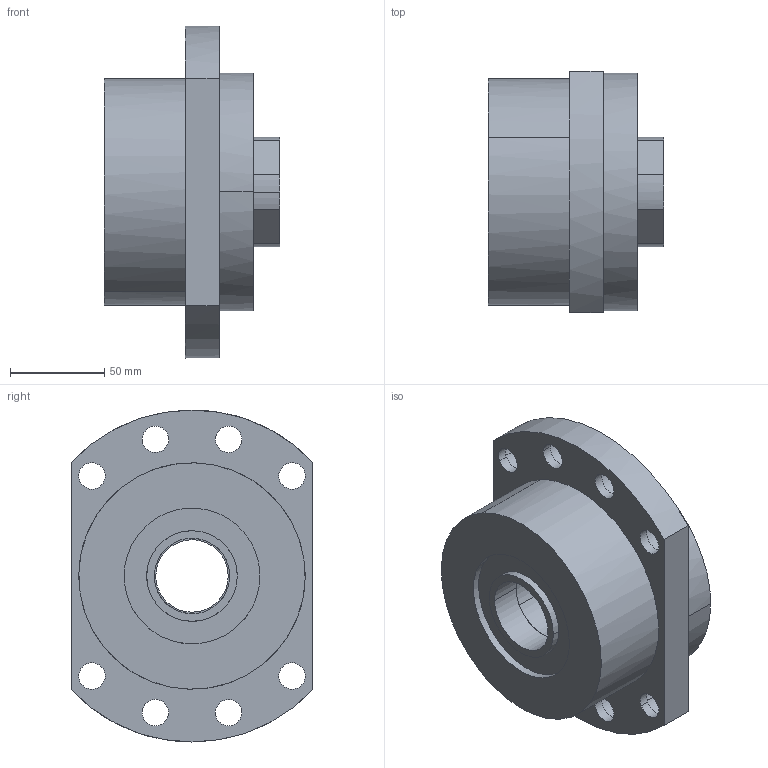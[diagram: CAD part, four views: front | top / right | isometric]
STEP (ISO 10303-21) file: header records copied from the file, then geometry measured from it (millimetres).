
FILE_DESCRIPTION(('CATIA V5 STEP Exchange'),'2;1');
FILE_NAME('D:\서포트 완성도면\FK\FK40.stp','2014-03-26T10:18:26+00:00',('none'),('none'),'CATIA Version 5 Release 18 GA (IN-10)','CATIA V5 STEP AP203','none');
FILE_SCHEMA(('CONFIG_CONTROL_DESIGN'));
Length unit declared in the file: millimetre
Products named in the file (1): FK40
Assembly tree (4 placements, depth 2):
  FK40
    #56
    #3390  x2
    #3666
Bounding box: 93 x 128 x 176 mm (x, y, z)
Volume: 921722 mm3; surface area: 110380.1 mm2
Topology: 4 solids, 4 shells, 92 faces, 212 edges, 142 vertices
Faces by surface type: cylinder 64, plane 28
Entity records: 4145 total; most frequent: CARTESIAN_POINT 2245, ORIENTED_EDGE 400, DIRECTION 271, EDGE_CURVE 200, VERTEX_POINT 134, EDGE_LOOP 122, AXIS2_PLACEMENT_3D 108, B_SPLINE_CURVE_WITH_KNOTS 95
